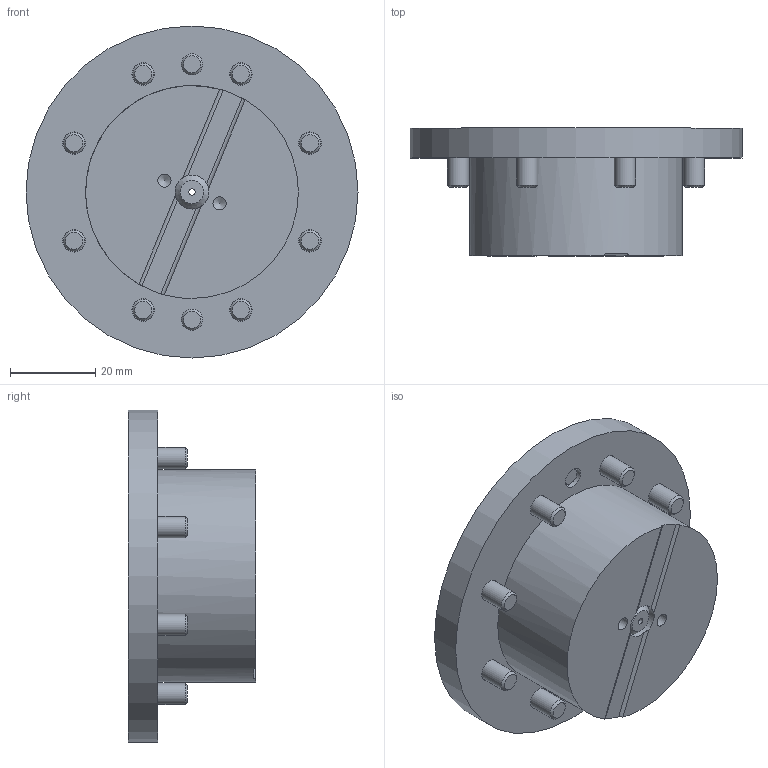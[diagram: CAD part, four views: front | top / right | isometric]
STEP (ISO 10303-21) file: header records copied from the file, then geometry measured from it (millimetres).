
FILE_DESCRIPTION( ( 'STEP AP203' ), ' ' );
FILE_NAME( 'p:/temp/worker_929/3380_5040/app_43_02017033010061030158055192d056f_000000_00_00_000000/format_1/AMF428680.stp', '2017-03-30T08:06:12', ( '' ), ( '' ), ' ', 'PARTsolutions', ' ' );
FILE_SCHEMA( ( 'CONFIG_CONTROL_DESIGN' ) );
Length unit declared in the file: millimetre
Products named in the file (1): _AMF428680
Bounding box: 78 x 30 x 78 mm (x, y, z)
Volume: 70058 mm3; surface area: 19958.2 mm2
Topology: 1 solids, 1 shells, 182 faces, 380 edges, 251 vertices
Faces by surface type: plane 117, cylinder 45, cone 20
Full cylindrical faces by diameter (mm): 1.5 x1, 3.1 x2, 5 x10, 5.3 x8, 8 x1, 8.3 x8, 8.6 x8, 22 x1, 50 x1, 78 x1
Entity records: 4534 total; most frequent: CARTESIAN_POINT 799, DIRECTION 776, ORIENTED_EDGE 614, EDGE_CURVE 307, EDGE_LOOP 296, AXIS2_PLACEMENT_3D 294, VERTEX_POINT 241, FACE_OUTER_BOUND 223
